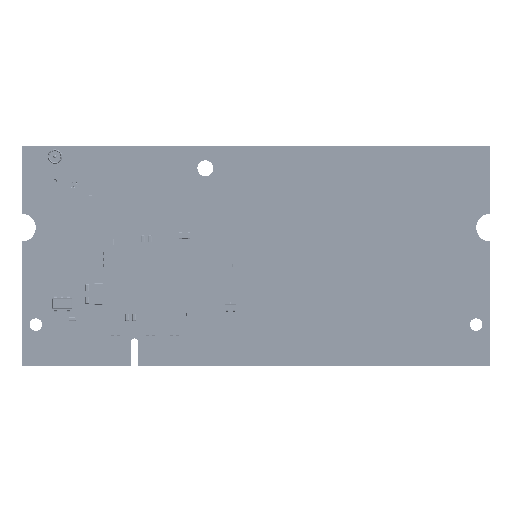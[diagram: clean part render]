
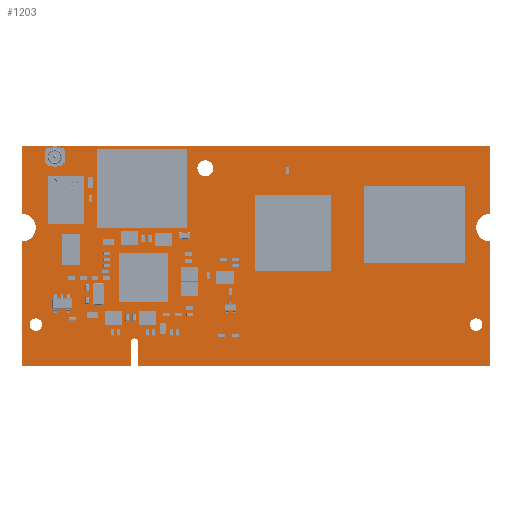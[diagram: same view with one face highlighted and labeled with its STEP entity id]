
A CAD part, top view. The second image highlights one B-rep face of the part: STEP entity #1203.
In plain terms, the highlighted planar face has unit normal (0, 0, 1).
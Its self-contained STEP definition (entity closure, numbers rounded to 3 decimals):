
#704 = VERTEX_POINT('',#705);
#705 = CARTESIAN_POINT('',(0.,0.,0.976));
#711 = EDGE_CURVE('',#704,#712,#714,.T.);
#712 = VERTEX_POINT('',#713);
#713 = CARTESIAN_POINT('',(0.,18.005,0.976));
#714 = LINE('',#715,#716);
#715 = CARTESIAN_POINT('',(0.,0.,0.976));
#716 = VECTOR('',#717,1.);
#717 = DIRECTION('',(0.,1.,0.));
#742 = EDGE_CURVE('',#712,#743,#745,.T.);
#743 = VERTEX_POINT('',#744);
#744 = CARTESIAN_POINT('',(0.,22.,0.976));
#745 = CIRCLE('',#746,1.998);
#746 = AXIS2_PLACEMENT_3D('',#747,#748,#749);
#747 = CARTESIAN_POINT('',(0.,20.003,0.976));
#748 = DIRECTION('',(0.,0.,1.));
#749 = DIRECTION('',(0.,-1.,0.));
#775 = EDGE_CURVE('',#743,#776,#778,.T.);
#776 = VERTEX_POINT('',#777);
#777 = CARTESIAN_POINT('',(0.,31.75,0.976));
#778 = LINE('',#779,#780);
#779 = CARTESIAN_POINT('',(0.,22.,0.976));
#780 = VECTOR('',#781,1.);
#781 = DIRECTION('',(0.,1.,0.));
#806 = EDGE_CURVE('',#776,#807,#809,.T.);
#807 = VERTEX_POINT('',#808);
#808 = CARTESIAN_POINT('',(67.6,31.75,0.976));
#809 = LINE('',#810,#811);
#810 = CARTESIAN_POINT('',(0.,31.75,0.976));
#811 = VECTOR('',#812,1.);
#812 = DIRECTION('',(1.,0.,0.));
#837 = EDGE_CURVE('',#807,#838,#840,.T.);
#838 = VERTEX_POINT('',#839);
#839 = CARTESIAN_POINT('',(67.6,22.,0.976));
#840 = LINE('',#841,#842);
#841 = CARTESIAN_POINT('',(67.6,31.75,0.976));
#842 = VECTOR('',#843,1.);
#843 = DIRECTION('',(0.,-1.,0.));
#868 = EDGE_CURVE('',#838,#869,#871,.T.);
#869 = VERTEX_POINT('',#870);
#870 = CARTESIAN_POINT('',(67.6,18.005,0.976));
#871 = CIRCLE('',#872,1.998);
#872 = AXIS2_PLACEMENT_3D('',#873,#874,#875);
#873 = CARTESIAN_POINT('',(67.6,20.003,0.976));
#874 = DIRECTION('',(0.,0.,1.));
#875 = DIRECTION('',(0.,1.,-0.));
#901 = EDGE_CURVE('',#869,#902,#904,.T.);
#902 = VERTEX_POINT('',#903);
#903 = CARTESIAN_POINT('',(67.6,0.,0.976));
#904 = LINE('',#905,#906);
#905 = CARTESIAN_POINT('',(67.6,18.005,0.976));
#906 = VECTOR('',#907,1.);
#907 = DIRECTION('',(0.,-1.,0.));
#932 = EDGE_CURVE('',#902,#933,#935,.T.);
#933 = VERTEX_POINT('',#934);
#934 = CARTESIAN_POINT('',(16.764,0.,0.976));
#935 = LINE('',#936,#937);
#936 = CARTESIAN_POINT('',(67.6,0.,0.976));
#937 = VECTOR('',#938,1.);
#938 = DIRECTION('',(-1.,0.,0.));
#963 = EDGE_CURVE('',#933,#964,#966,.T.);
#964 = VERTEX_POINT('',#965);
#965 = CARTESIAN_POINT('',(16.764,3.496,0.976));
#966 = LINE('',#967,#968);
#967 = CARTESIAN_POINT('',(16.764,0.,0.976));
#968 = VECTOR('',#969,1.);
#969 = DIRECTION('',(0.,1.,0.));
#994 = EDGE_CURVE('',#964,#995,#997,.T.);
#995 = VERTEX_POINT('',#996);
#996 = CARTESIAN_POINT('',(15.748,3.493,0.976));
#997 = CIRCLE('',#998,0.508);
#998 = AXIS2_PLACEMENT_3D('',#999,#1000,#1001);
#999 = CARTESIAN_POINT('',(16.256,3.496,0.976));
#1000 = DIRECTION('',(0.,0.,1.));
#1001 = DIRECTION('',(1.,0.,-0.));
#1027 = EDGE_CURVE('',#995,#1028,#1030,.T.);
#1028 = VERTEX_POINT('',#1029);
#1029 = CARTESIAN_POINT('',(15.748,0.,0.976));
#1030 = LINE('',#1031,#1032);
#1031 = CARTESIAN_POINT('',(15.748,3.493,0.976));
#1032 = VECTOR('',#1033,1.);
#1033 = DIRECTION('',(0.,-1.,0.));
#1058 = EDGE_CURVE('',#1028,#704,#1059,.T.);
#1059 = LINE('',#1060,#1061);
#1060 = CARTESIAN_POINT('',(15.748,0.,0.976));
#1061 = VECTOR('',#1062,1.);
#1062 = DIRECTION('',(-1.,0.,0.));
#1082 = VERTEX_POINT('',#1083);
#1083 = CARTESIAN_POINT('',(2.9,6.,0.976));
#1089 = EDGE_CURVE('',#1082,#1082,#1090,.T.);
#1090 = CIRCLE('',#1091,0.9);
#1091 = AXIS2_PLACEMENT_3D('',#1092,#1093,#1094);
#1092 = CARTESIAN_POINT('',(2.,6.,0.976));
#1093 = DIRECTION('',(0.,0.,1.));
#1094 = DIRECTION('',(1.,0.,-0.));
#1115 = VERTEX_POINT('',#1116);
#1116 = CARTESIAN_POINT('',(66.5,6.,0.976));
#1122 = EDGE_CURVE('',#1115,#1115,#1123,.T.);
#1123 = CIRCLE('',#1124,0.9);
#1124 = AXIS2_PLACEMENT_3D('',#1125,#1126,#1127);
#1125 = CARTESIAN_POINT('',(65.6,6.,0.976));
#1126 = DIRECTION('',(0.,0.,1.));
#1127 = DIRECTION('',(1.,0.,-0.));
#1148 = VERTEX_POINT('',#1149);
#1149 = CARTESIAN_POINT('',(27.622,28.575,0.976));
#1155 = EDGE_CURVE('',#1148,#1148,#1156,.T.);
#1156 = CIRCLE('',#1157,1.143);
#1157 = AXIS2_PLACEMENT_3D('',#1158,#1159,#1160);
#1158 = CARTESIAN_POINT('',(26.479,28.575,0.976));
#1159 = DIRECTION('',(0.,0.,1.));
#1160 = DIRECTION('',(1.,0.,-0.));
#1203 = ADVANCED_FACE('',(#1204,#1218,#1221,#1224),#1227,.F.);
#1204 = FACE_BOUND('',#1205,.F.);
#1205 = EDGE_LOOP('',(#1206,#1207,#1208,#1209,#1210,#1211,#1212,#1213,
    #1214,#1215,#1216,#1217));
#1206 = ORIENTED_EDGE('',*,*,#711,.T.);
#1207 = ORIENTED_EDGE('',*,*,#742,.T.);
#1208 = ORIENTED_EDGE('',*,*,#775,.T.);
#1209 = ORIENTED_EDGE('',*,*,#806,.T.);
#1210 = ORIENTED_EDGE('',*,*,#837,.T.);
#1211 = ORIENTED_EDGE('',*,*,#868,.T.);
#1212 = ORIENTED_EDGE('',*,*,#901,.T.);
#1213 = ORIENTED_EDGE('',*,*,#932,.T.);
#1214 = ORIENTED_EDGE('',*,*,#963,.T.);
#1215 = ORIENTED_EDGE('',*,*,#994,.T.);
#1216 = ORIENTED_EDGE('',*,*,#1027,.T.);
#1217 = ORIENTED_EDGE('',*,*,#1058,.T.);
#1218 = FACE_BOUND('',#1219,.F.);
#1219 = EDGE_LOOP('',(#1220));
#1220 = ORIENTED_EDGE('',*,*,#1089,.T.);
#1221 = FACE_BOUND('',#1222,.F.);
#1222 = EDGE_LOOP('',(#1223));
#1223 = ORIENTED_EDGE('',*,*,#1122,.T.);
#1224 = FACE_BOUND('',#1225,.F.);
#1225 = EDGE_LOOP('',(#1226));
#1226 = ORIENTED_EDGE('',*,*,#1155,.T.);
#1227 = PLANE('',#1228);
#1228 = AXIS2_PLACEMENT_3D('',#1229,#1230,#1231);
#1229 = CARTESIAN_POINT('',(33.174,15.473,0.976));
#1230 = DIRECTION('',(-0.,-0.,-1.));
#1231 = DIRECTION('',(-1.,0.,0.));
